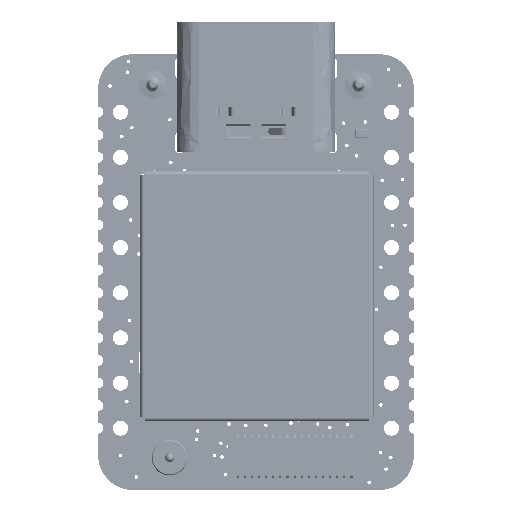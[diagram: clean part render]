
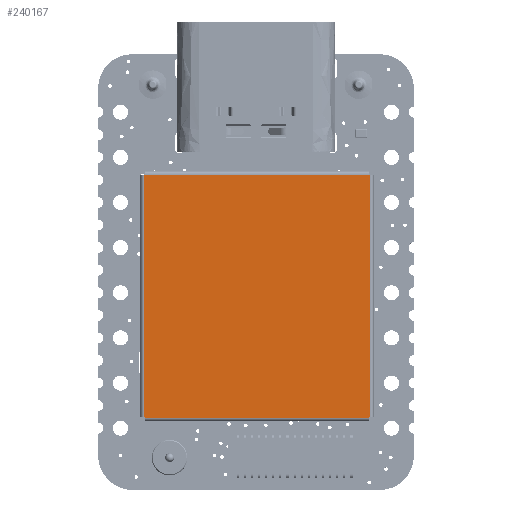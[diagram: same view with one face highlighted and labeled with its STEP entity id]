
A CAD part, top view. The second image highlights one B-rep face of the part: STEP entity #240167.
In plain terms, the highlighted planar face has unit normal (0, 0, 1).
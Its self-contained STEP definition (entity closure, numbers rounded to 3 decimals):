
#240057 = VERTEX_POINT('',#240058);
#240058 = CARTESIAN_POINT('',(-6.309,-6.782,
    1.7));
#240064 = EDGE_CURVE('',#240065,#240057,#240067,.T.);
#240065 = VERTEX_POINT('',#240066);
#240066 = CARTESIAN_POINT('',(-6.309,-6.832,
    1.7));
#240067 = LINE('',#240068,#240069);
#240068 = CARTESIAN_POINT('',(-6.309,-6.832,
    1.7));
#240069 = VECTOR('',#240070,1.);
#240070 = DIRECTION('',(0.,1.,0.));
#240115 = VERTEX_POINT('',#240116);
#240116 = CARTESIAN_POINT('',(6.309,-6.832,
    1.7));
#240123 = EDGE_CURVE('',#240115,#240124,#240126,.T.);
#240124 = VERTEX_POINT('',#240125);
#240125 = CARTESIAN_POINT('',(6.309,-6.782,
    1.7));
#240126 = LINE('',#240127,#240128);
#240127 = CARTESIAN_POINT('',(6.309,-6.832,
    1.7));
#240128 = VECTOR('',#240129,1.);
#240129 = DIRECTION('',(0.,1.,0.));
#240155 = EDGE_CURVE('',#240065,#240115,#240156,.T.);
#240156 = LINE('',#240157,#240158);
#240157 = CARTESIAN_POINT('',(-6.309,-6.832,
    1.7));
#240158 = VECTOR('',#240159,1.);
#240159 = DIRECTION('',(1.,0.,0.));
#240167 = ADVANCED_FACE('',(#240168),#240243,.T.);
#240168 = FACE_BOUND('',#240169,.F.);
#240169 = EDGE_LOOP('',(#240170,#240171,#240172,#240180,#240188,#240196,
    #240204,#240212,#240220,#240228,#240236,#240242));
#240170 = ORIENTED_EDGE('',*,*,#240155,.F.);
#240171 = ORIENTED_EDGE('',*,*,#240064,.T.);
#240172 = ORIENTED_EDGE('',*,*,#240173,.F.);
#240173 = EDGE_CURVE('',#240174,#240057,#240176,.T.);
#240174 = VERTEX_POINT('',#240175);
#240175 = CARTESIAN_POINT('',(-6.359,-6.782,
    1.7));
#240176 = LINE('',#240177,#240178);
#240177 = CARTESIAN_POINT('',(-6.359,-6.782,
    1.7));
#240178 = VECTOR('',#240179,1.);
#240179 = DIRECTION('',(1.,0.,0.));
#240180 = ORIENTED_EDGE('',*,*,#240181,.F.);
#240181 = EDGE_CURVE('',#240182,#240174,#240184,.T.);
#240182 = VERTEX_POINT('',#240183);
#240183 = CARTESIAN_POINT('',(-6.359,6.782,
    1.7));
#240184 = LINE('',#240185,#240186);
#240185 = CARTESIAN_POINT('',(-6.359,6.782,
    1.7));
#240186 = VECTOR('',#240187,1.);
#240187 = DIRECTION('',(0.,-1.,0.));
#240188 = ORIENTED_EDGE('',*,*,#240189,.T.);
#240189 = EDGE_CURVE('',#240182,#240190,#240192,.T.);
#240190 = VERTEX_POINT('',#240191);
#240191 = CARTESIAN_POINT('',(-6.309,6.782,
    1.7));
#240192 = LINE('',#240193,#240194);
#240193 = CARTESIAN_POINT('',(-6.359,6.782,
    1.7));
#240194 = VECTOR('',#240195,1.);
#240195 = DIRECTION('',(1.,0.,0.));
#240196 = ORIENTED_EDGE('',*,*,#240197,.F.);
#240197 = EDGE_CURVE('',#240198,#240190,#240200,.T.);
#240198 = VERTEX_POINT('',#240199);
#240199 = CARTESIAN_POINT('',(-6.309,6.832,
    1.7));
#240200 = LINE('',#240201,#240202);
#240201 = CARTESIAN_POINT('',(-6.309,6.832,
    1.7));
#240202 = VECTOR('',#240203,1.);
#240203 = DIRECTION('',(0.,-1.,0.));
#240204 = ORIENTED_EDGE('',*,*,#240205,.F.);
#240205 = EDGE_CURVE('',#240206,#240198,#240208,.T.);
#240206 = VERTEX_POINT('',#240207);
#240207 = CARTESIAN_POINT('',(6.309,6.832,
    1.7));
#240208 = LINE('',#240209,#240210);
#240209 = CARTESIAN_POINT('',(6.309,6.832,
    1.7));
#240210 = VECTOR('',#240211,1.);
#240211 = DIRECTION('',(-1.,0.,0.));
#240212 = ORIENTED_EDGE('',*,*,#240213,.T.);
#240213 = EDGE_CURVE('',#240206,#240214,#240216,.T.);
#240214 = VERTEX_POINT('',#240215);
#240215 = CARTESIAN_POINT('',(6.309,6.782,
    1.7));
#240216 = LINE('',#240217,#240218);
#240217 = CARTESIAN_POINT('',(6.309,6.832,
    1.7));
#240218 = VECTOR('',#240219,1.);
#240219 = DIRECTION('',(0.,-1.,0.));
#240220 = ORIENTED_EDGE('',*,*,#240221,.F.);
#240221 = EDGE_CURVE('',#240222,#240214,#240224,.T.);
#240222 = VERTEX_POINT('',#240223);
#240223 = CARTESIAN_POINT('',(6.359,6.782,
    1.7));
#240224 = LINE('',#240225,#240226);
#240225 = CARTESIAN_POINT('',(6.359,6.782,
    1.7));
#240226 = VECTOR('',#240227,1.);
#240227 = DIRECTION('',(-1.,0.,0.));
#240228 = ORIENTED_EDGE('',*,*,#240229,.F.);
#240229 = EDGE_CURVE('',#240230,#240222,#240232,.T.);
#240230 = VERTEX_POINT('',#240231);
#240231 = CARTESIAN_POINT('',(6.359,-6.782,
    1.7));
#240232 = LINE('',#240233,#240234);
#240233 = CARTESIAN_POINT('',(6.359,-6.782,
    1.7));
#240234 = VECTOR('',#240235,1.);
#240235 = DIRECTION('',(0.,1.,0.));
#240236 = ORIENTED_EDGE('',*,*,#240237,.T.);
#240237 = EDGE_CURVE('',#240230,#240124,#240238,.T.);
#240238 = LINE('',#240239,#240240);
#240239 = CARTESIAN_POINT('',(6.359,-6.782,
    1.7));
#240240 = VECTOR('',#240241,1.);
#240241 = DIRECTION('',(-1.,0.,0.));
#240242 = ORIENTED_EDGE('',*,*,#240123,.F.);
#240243 = PLANE('',#240244);
#240244 = AXIS2_PLACEMENT_3D('',#240245,#240246,#240247);
#240245 = CARTESIAN_POINT('',(0.,0.,1.7));
#240246 = DIRECTION('',(0.,0.,1.));
#240247 = DIRECTION('',(1.,0.,0.));
